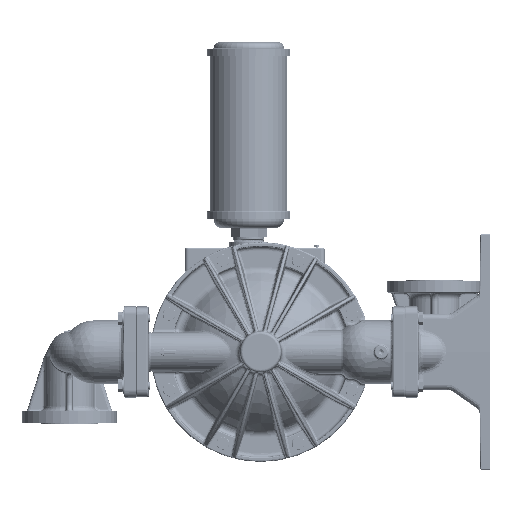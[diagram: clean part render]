
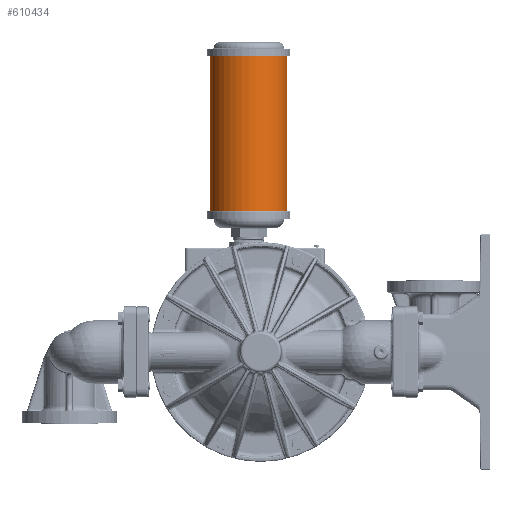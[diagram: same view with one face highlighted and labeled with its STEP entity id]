
A CAD part, left-side view. The second image highlights one B-rep face of the part: STEP entity #610434.
In plain terms, the highlighted cylindrical face has radius 61.722 mm (diameter 123.444 mm), a partial arc.
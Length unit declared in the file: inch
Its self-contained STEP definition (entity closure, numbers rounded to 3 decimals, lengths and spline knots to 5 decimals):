
#4792 = ORIENTED_EDGE ( 'NONE', *, *, #124008, .T. ) ;
#19722 = EDGE_CURVE ( 'NONE', #477148, #478464, #666968, .T. ) ;
#37905 = DIRECTION ( 'NONE',  ( 0., 1., 0. ) ) ;
#44167 = CARTESIAN_POINT ( 'NONE',  ( 0., 3.18, 18.685 ) ) ;
#113693 = DIRECTION ( 'NONE',  ( 0., -1., 0. ) ) ;
#123688 = CARTESIAN_POINT ( 'NONE',  ( 0., -1.68, 8.905 ) ) ;
#124008 = EDGE_CURVE ( 'NONE', #478464, #343272, #394566, .T. ) ;
#142213 = CARTESIAN_POINT ( 'NONE',  ( 0., 0.75, 8.905 ) ) ;
#155689 = CARTESIAN_POINT ( 'NONE',  ( 0., 3.18, 8.905 ) ) ;
#179871 = AXIS2_PLACEMENT_3D ( 'NONE', #142213, #317043, #37905 ) ;
#199642 = AXIS2_PLACEMENT_3D ( 'NONE', #503584, #343449, #220755 ) ;
#205407 = EDGE_CURVE ( 'NONE', #418502, #343272, #461118, .T. ) ;
#217974 = DIRECTION ( 'NONE',  ( 0., 0., -1. ) ) ;
#220755 = DIRECTION ( 'NONE',  ( 0., 1., 0. ) ) ;
#238081 = CARTESIAN_POINT ( 'NONE',  ( 0., -1.68, 8.905 ) ) ;
#273814 = FACE_OUTER_BOUND ( 'NONE', #704078, .T. ) ;
#292467 = CARTESIAN_POINT ( 'NONE',  ( 0., -1.68, 18.685 ) ) ;
#306385 = AXIS2_PLACEMENT_3D ( 'NONE', #727865, #217974, #113693 ) ;
#317043 = DIRECTION ( 'NONE',  ( 0., 0., 1. ) ) ;
#323456 = CARTESIAN_POINT ( 'NONE',  ( 0., 3.18, 8.905 ) ) ;
#342372 = ORIENTED_EDGE ( 'NONE', *, *, #205407, .F. ) ;
#343272 = VERTEX_POINT ( 'NONE', #292467 ) ;
#343449 = DIRECTION ( 'NONE',  ( 0., 0., 1. ) ) ;
#359820 = VECTOR ( 'NONE', #401905, 39.37008 ) ;
#394566 = LINE ( 'NONE', #238081, #359820 ) ;
#401905 = DIRECTION ( 'NONE',  ( 0., 0., 1. ) ) ;
#416539 = ORIENTED_EDGE ( 'NONE', *, *, #19722, .T. ) ;
#418502 = VERTEX_POINT ( 'NONE', #44167 ) ;
#435098 = LINE ( 'NONE', #323456, #631213 ) ;
#461118 = CIRCLE ( 'NONE', #199642, 2.43 ) ;
#468990 = ORIENTED_EDGE ( 'NONE', *, *, #484241, .F. ) ;
#477148 = VERTEX_POINT ( 'NONE', #155689 ) ;
#478464 = VERTEX_POINT ( 'NONE', #123688 ) ;
#484241 = EDGE_CURVE ( 'NONE', #477148, #418502, #435098, .T. ) ;
#503584 = CARTESIAN_POINT ( 'NONE',  ( 0., 0.75, 18.685 ) ) ;
#567629 = CYLINDRICAL_SURFACE ( 'NONE', #306385, 2.43 ) ;
#610434 = ADVANCED_FACE ( 'NONE', ( #273814 ), #567629, .T. ) ;
#631213 = VECTOR ( 'NONE', #721626, 39.37008 ) ;
#666968 = CIRCLE ( 'NONE', #179871, 2.43 ) ;
#704078 = EDGE_LOOP ( 'NONE', ( #416539, #4792, #342372, #468990 ) ) ;
#721626 = DIRECTION ( 'NONE',  ( 0., 0., 1. ) ) ;
#727865 = CARTESIAN_POINT ( 'NONE',  ( 0., 0.75, 20.1725 ) ) ;
